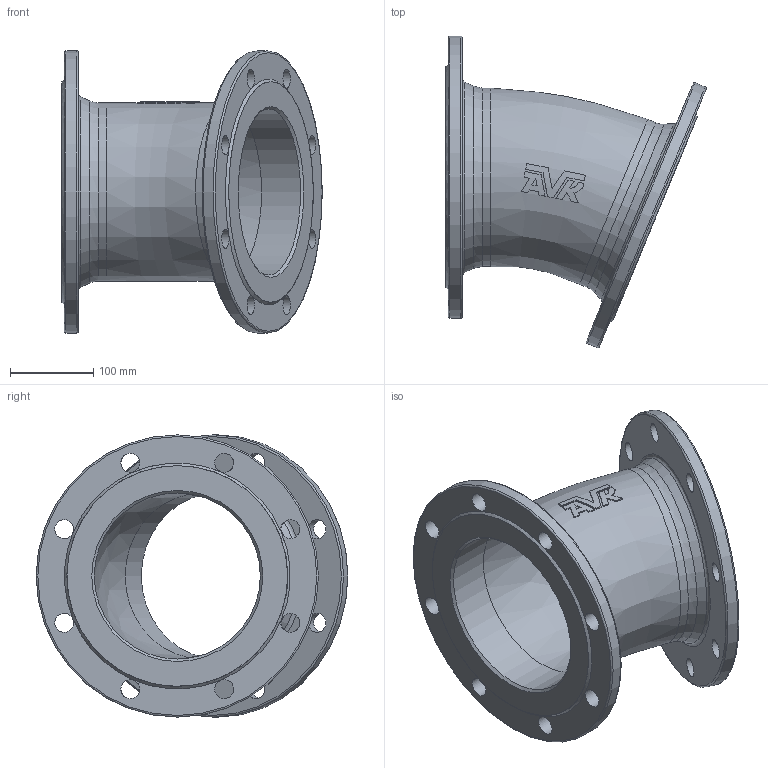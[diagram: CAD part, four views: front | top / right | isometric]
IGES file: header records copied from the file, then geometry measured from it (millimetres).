
Start section: SolidWorks IGES file using analytic representation for surfaces
Global section: file name: \\avksan2\techshare\PBM outline export from Enovia\O_712_0210_DN200_0X_REV01.igs; native system: SolidWorks 2022; preprocessor: SolidWorks 2022; author: pbm; date: 240815.140723; units: millimetre
Bounding box: 313.7 x 375.43 x 340 mm (x, y, z)
Surface area: 569837.3 mm2 (no closed solid volume)
Topology: 0 solids, 0 shells, 85 faces, 433 edges, 379 vertices
Faces by surface type: revolution 44, bspline 41
